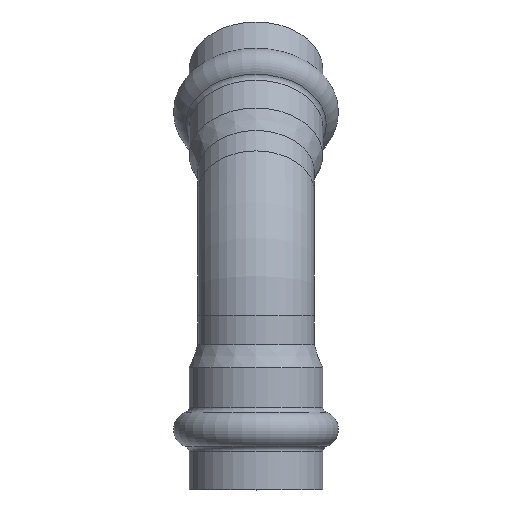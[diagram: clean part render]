
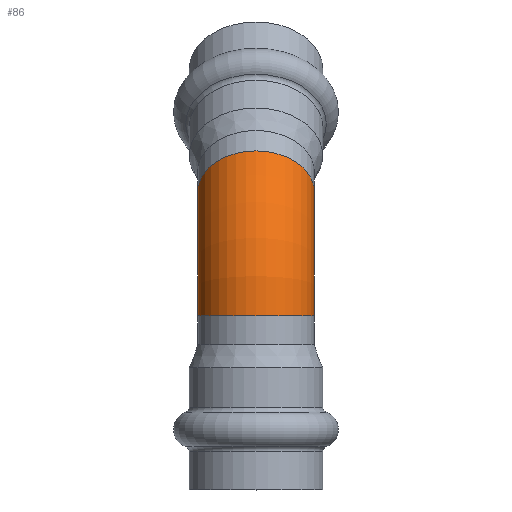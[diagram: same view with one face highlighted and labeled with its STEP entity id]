
A CAD part, top view. The second image highlights one B-rep face of the part: STEP entity #86.
In plain terms, the highlighted toroidal (fillet/blend) face has major radius 33 mm and minor radius 11 mm.
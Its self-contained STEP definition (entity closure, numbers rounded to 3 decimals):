
#86=ADVANCED_FACE('',(#384,#386),#388,.T.);
#384=FACE_BOUND('',#385,.T.);
#385=EDGE_LOOP('',(#474,#475));
#386=FACE_OUTER_BOUND('',#387,.T.);
#387=EDGE_LOOP('',(#476));
#388=TOROIDAL_SURFACE('',#389,33.,11.);
#389=AXIS2_PLACEMENT_3D('',#390,#391,#392);
#390=CARTESIAN_POINT('',(0.,32.831,-33.));
#391=DIRECTION('',(-1.,0.,0.));
#392=DIRECTION('',(0.,0.,1.));
#474=ORIENTED_EDGE('',*,*,#518,.T.);
#475=ORIENTED_EDGE('',*,*,#517,.T.);
#476=ORIENTED_EDGE('',*,*,#516,.F.);
#516=EDGE_CURVE('',#597,#597,#598,.T.);
#517=EDGE_CURVE('',#599,#600,#601,.T.);
#518=EDGE_CURVE('',#600,#599,#602,.T.);
#597=VERTEX_POINT('',#798);
#598=CIRCLE('',#799,11.);
#599=VERTEX_POINT('',#803);
#600=VERTEX_POINT('',#804);
#601=CIRCLE('',#805,11.);
#602=CIRCLE('',#809,11.);
#798=CARTESIAN_POINT('',(-11.,56.165,-9.665));
#799=AXIS2_PLACEMENT_3D('',#800,#801,#802);
#800=CARTESIAN_POINT('',(0.,56.165,-9.665));
#801=DIRECTION('',(0.,0.707,-0.707));
#802=DIRECTION('',(-1.,0.,0.));
#803=CARTESIAN_POINT('',(-11.,32.831,0.));
#804=CARTESIAN_POINT('',(0.,32.831,11.));
#805=AXIS2_PLACEMENT_3D('',#806,#807,#808);
#806=CARTESIAN_POINT('',(0.,32.831,0.));
#807=DIRECTION('',(0.,1.,0.));
#808=DIRECTION('',(-1.,0.,0.));
#809=AXIS2_PLACEMENT_3D('',#810,#811,#812);
#810=CARTESIAN_POINT('',(0.,32.831,0.));
#811=DIRECTION('',(0.,1.,0.));
#812=DIRECTION('',(0.,0.,1.));
